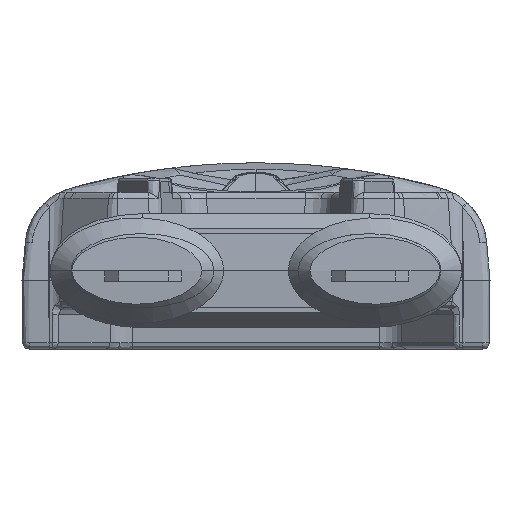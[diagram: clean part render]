
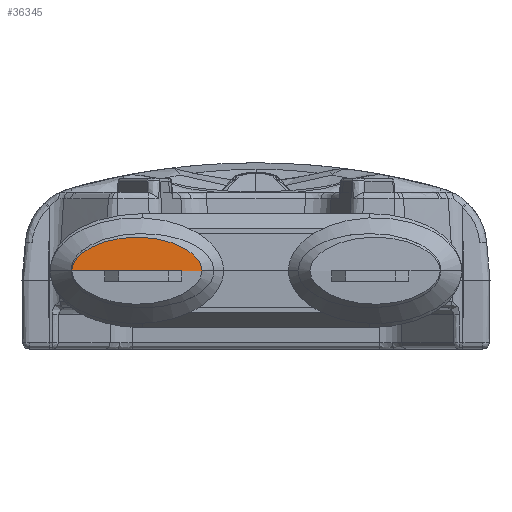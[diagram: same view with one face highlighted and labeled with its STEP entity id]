
A CAD part, left-side view. The second image highlights one B-rep face of the part: STEP entity #36345.
In plain terms, the highlighted planar face has unit normal (-0.999, 0, 0.052).
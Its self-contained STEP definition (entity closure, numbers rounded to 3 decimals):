
#1679 = CARTESIAN_POINT ( 'NONE',  ( -15.391, 6.707, 2.85 ) ) ;
#2195 = CARTESIAN_POINT ( 'NONE',  ( -15.351, 6.175, 3.607 ) ) ;
#2412 = CARTESIAN_POINT ( 'NONE',  ( -15.391, 15.01, 2.85 ) ) ;
#2907 = DIRECTION ( 'NONE',  ( 0., -1., 0. ) ) ;
#3217 = CARTESIAN_POINT ( 'NONE',  ( -15.384, 1.959, 2.971 ) ) ;
#5044 = CARTESIAN_POINT ( 'NONE',  ( -15.391, 1.964, 2.85 ) ) ;
#9997 = CARTESIAN_POINT ( 'NONE',  ( -15.328, 3.856, 4.051 ) ) ;
#10862 = DIRECTION ( 'NONE',  ( 0.052, 0., 0.999 ) ) ;
#17287 = CARTESIAN_POINT ( 'NONE',  ( -15.391, 1.964, 2.85 ) ) ;
#18116 = CARTESIAN_POINT ( 'NONE',  ( -15.391, 2.704, 2.85 ) ) ;
#21496 = LINE ( 'NONE', #76736, #79333 ) ;
#24434 = EDGE_CURVE ( 'NONE', #34900, #37183, #74270, .T. ) ;
#25974 = FACE_OUTER_BOUND ( 'NONE', #49725, .T. ) ;
#26063 = ORIENTED_EDGE ( 'NONE', *, *, #58580, .T. ) ;
#27009 = CARTESIAN_POINT ( 'NONE',  ( -15.391, 15.01, 2.85 ) ) ;
#27164 = CARTESIAN_POINT ( 'NONE',  ( -15.335, 5.519, 3.903 ) ) ;
#31254 = ORIENTED_EDGE ( 'NONE', *, *, #38034, .T. ) ;
#32932 = CARTESIAN_POINT ( 'NONE',  ( -15.332, 3.385, 3.967 ) ) ;
#34900 = VERTEX_POINT ( 'NONE', #44384 ) ;
#34976 = CARTESIAN_POINT ( 'NONE',  ( -15.328, 4.815, 4.051 ) ) ;
#36345 = ADVANCED_FACE ( 'NONE', ( #25974 ), #75451, .F. ) ;
#37183 = VERTEX_POINT ( 'NONE', #68439 ) ;
#38034 = EDGE_CURVE ( 'NONE', #97170, #34900, #70629, .T. ) ;
#41252 = CARTESIAN_POINT ( 'NONE',  ( -15.368, 6.532, 3.29 ) ) ;
#41773 = CARTESIAN_POINT ( 'NONE',  ( -15.327, 4.096, 4.072 ) ) ;
#42780 = EDGE_CURVE ( 'NONE', #37183, #63277, #73788, .T. ) ;
#44384 = CARTESIAN_POINT ( 'NONE',  ( -15.391, 6.707, 2.85 ) ) ;
#49087 = CARTESIAN_POINT ( 'NONE',  ( -15.384, 6.712, 2.972 ) ) ;
#49725 = EDGE_LOOP ( 'NONE', ( #75319, #100110, #26063, #31254 ) ) ;
#50616 = CARTESIAN_POINT ( 'NONE',  ( -15.363, 6.447, 3.378 ) ) ;
#51124 = CARTESIAN_POINT ( 'NONE',  ( -15.363, 2.223, 3.377 ) ) ;
#53293 = DIRECTION ( 'NONE',  ( 0., -1., 0. ) ) ;
#56911 = CARTESIAN_POINT ( 'NONE',  ( -15.327, 4.576, 4.072 ) ) ;
#58580 = EDGE_CURVE ( 'NONE', #63277, #97170, #21496, .T. ) ;
#63277 = VERTEX_POINT ( 'NONE', #18116 ) ;
#64751 = CARTESIAN_POINT ( 'NONE',  ( -15.351, 2.496, 3.608 ) ) ;
#65750 = CARTESIAN_POINT ( 'NONE',  ( -15.345, 2.709, 3.723 ) ) ;
#66267 = CARTESIAN_POINT ( 'NONE',  ( -15.378, 2.007, 3.089 ) ) ;
#66787 = CARTESIAN_POINT ( 'NONE',  ( -15.378, 6.664, 3.089 ) ) ;
#68439 = CARTESIAN_POINT ( 'NONE',  ( -15.391, 5.504, 2.85 ) ) ;
#70629 = B_SPLINE_CURVE_WITH_KNOTS ( 'NONE', 3,
 ( #17287, #3217, #66267, #72546, #51124, #64751, #65750, #81388, #32932, #9997, #41773, #56911, #34976, #81903, #27164, #82925, #2195, #50616, #41252, #66787, #49087, #1679 ),
 .UNSPECIFIED., .F., .F.,
 ( 4, 2, 2, 2, 2, 2, 2, 2, 2, 2, 4 ),
 ( 0., 0., 0.001, 0.001, 0.002, 0.003, 0.004, 0.004, 0.005, 0.005, 0.006 ),
 .UNSPECIFIED. ) ;
#72546 = CARTESIAN_POINT ( 'NONE',  ( -15.368, 2.138, 3.289 ) ) ;
#73788 = LINE ( 'NONE', #2412, #83349 ) ;
#73905 = DIRECTION ( 'NONE',  ( 0.999, 0., -0.052 ) ) ;
#74270 = LINE ( 'NONE', #82611, #86277 ) ;
#75319 = ORIENTED_EDGE ( 'NONE', *, *, #24434, .T. ) ;
#75451 = PLANE ( 'NONE',  #102649 ) ;
#76736 = CARTESIAN_POINT ( 'NONE',  ( -15.391, 15.01, 2.85 ) ) ;
#79333 = VECTOR ( 'NONE', #53293, 1000. ) ;
#81388 = CARTESIAN_POINT ( 'NONE',  ( -15.335, 3.152, 3.903 ) ) ;
#81903 = CARTESIAN_POINT ( 'NONE',  ( -15.332, 5.287, 3.967 ) ) ;
#82124 = DIRECTION ( 'NONE',  ( 0., -1., 0. ) ) ;
#82611 = CARTESIAN_POINT ( 'NONE',  ( -15.391, 15.01, 2.85 ) ) ;
#82925 = CARTESIAN_POINT ( 'NONE',  ( -15.345, 5.963, 3.723 ) ) ;
#83349 = VECTOR ( 'NONE', #82124, 1000. ) ;
#86277 = VECTOR ( 'NONE', #2907, 1000. ) ;
#97170 = VERTEX_POINT ( 'NONE', #5044 ) ;
#100110 = ORIENTED_EDGE ( 'NONE', *, *, #42780, .T. ) ;
#102649 = AXIS2_PLACEMENT_3D ( 'NONE', #27009, #73905, #10862 ) ;
